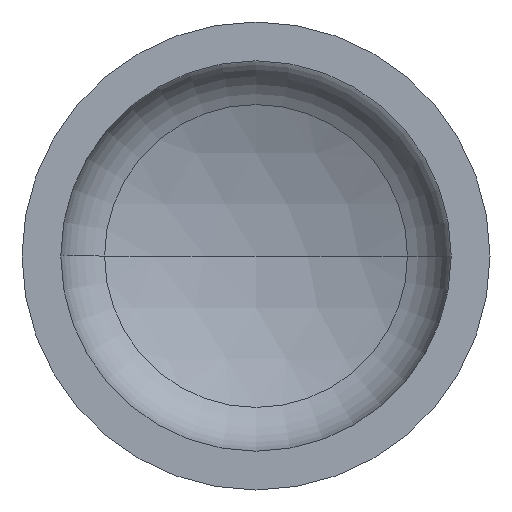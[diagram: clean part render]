
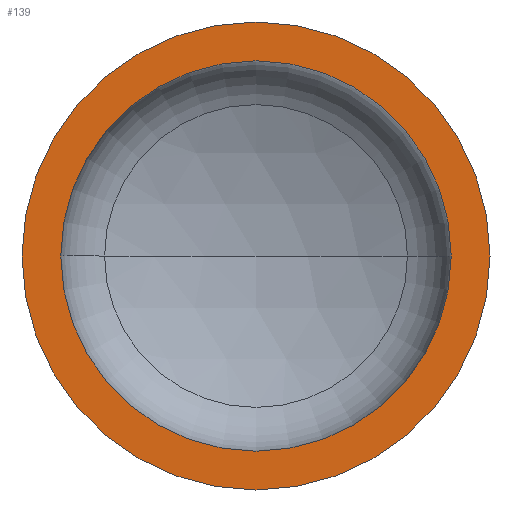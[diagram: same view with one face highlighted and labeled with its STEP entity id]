
A CAD part, front view. The second image highlights one B-rep face of the part: STEP entity #139.
In plain terms, the highlighted planar face has unit normal (0, -1, 0).
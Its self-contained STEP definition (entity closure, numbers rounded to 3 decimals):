
#5 = VERTEX_POINT ( 'NONE', #263 ) ;
#13 = EDGE_LOOP ( 'NONE', ( #81, #29 ) ) ;
#29 = ORIENTED_EDGE ( 'NONE', *, *, #124, .T. ) ;
#37 = AXIS2_PLACEMENT_3D ( 'NONE', #175, #95, #98 ) ;
#51 = VERTEX_POINT ( 'NONE', #281 ) ;
#56 = EDGE_LOOP ( 'NONE', ( #70, #102 ) ) ;
#69 = AXIS2_PLACEMENT_3D ( 'NONE', #226, #208, #209 ) ;
#70 = ORIENTED_EDGE ( 'NONE', *, *, #126, .F. ) ;
#81 = ORIENTED_EDGE ( 'NONE', *, *, #331, .T. ) ;
#92 = AXIS2_PLACEMENT_3D ( 'NONE', #310, #308, #305 ) ;
#95 = DIRECTION ( 'NONE',  ( 0., -1., 0. ) ) ;
#96 = VERTEX_POINT ( 'NONE', #231 ) ;
#98 = DIRECTION ( 'NONE',  ( 1., 0., 0. ) ) ;
#99 = AXIS2_PLACEMENT_3D ( 'NONE', #354, #349, #188 ) ;
#102 = ORIENTED_EDGE ( 'NONE', *, *, #391, .F. ) ;
#124 = EDGE_CURVE ( 'NONE', #5, #132, #160, .T. ) ;
#126 = EDGE_CURVE ( 'NONE', #51, #96, #405, .T. ) ;
#132 = VERTEX_POINT ( 'NONE', #314 ) ;
#139 = ADVANCED_FACE ( 'NONE', ( #398, #151 ), #190, .F. ) ;
#151 = FACE_OUTER_BOUND ( 'NONE', #13, .T. ) ;
#156 = CIRCLE ( 'NONE', #206, 292. ) ;
#160 = CIRCLE ( 'NONE', #99, 350. ) ;
#166 = DIRECTION ( 'NONE',  ( 0., -1., 0. ) ) ;
#175 = CARTESIAN_POINT ( 'NONE',  ( 0., 0., 0. ) ) ;
#188 = DIRECTION ( 'NONE',  ( 1., 0., 0. ) ) ;
#190 = PLANE ( 'NONE',  #69 ) ;
#206 = AXIS2_PLACEMENT_3D ( 'NONE', #315, #166, #340 ) ;
#208 = DIRECTION ( 'NONE',  ( 0., 1., 0. ) ) ;
#209 = DIRECTION ( 'NONE',  ( -1., 0., 0. ) ) ;
#226 = CARTESIAN_POINT ( 'NONE',  ( -350., 0., 0. ) ) ;
#231 = CARTESIAN_POINT ( 'NONE',  ( -292., 0., 0. ) ) ;
#258 = CIRCLE ( 'NONE', #37, 350. ) ;
#263 = CARTESIAN_POINT ( 'NONE',  ( -350., 0., 0. ) ) ;
#281 = CARTESIAN_POINT ( 'NONE',  ( 292., 0., 0. ) ) ;
#305 = DIRECTION ( 'NONE',  ( 1., 0., 0. ) ) ;
#308 = DIRECTION ( 'NONE',  ( 0., -1., 0. ) ) ;
#310 = CARTESIAN_POINT ( 'NONE',  ( 0., 0., 0. ) ) ;
#314 = CARTESIAN_POINT ( 'NONE',  ( 350., 0., 0. ) ) ;
#315 = CARTESIAN_POINT ( 'NONE',  ( 0., 0., 0. ) ) ;
#331 = EDGE_CURVE ( 'NONE', #132, #5, #258, .T. ) ;
#340 = DIRECTION ( 'NONE',  ( 1., 0., 0. ) ) ;
#349 = DIRECTION ( 'NONE',  ( 0., -1., 0. ) ) ;
#354 = CARTESIAN_POINT ( 'NONE',  ( 0., 0., 0. ) ) ;
#391 = EDGE_CURVE ( 'NONE', #96, #51, #156, .T. ) ;
#398 = FACE_BOUND ( 'NONE', #56, .T. ) ;
#405 = CIRCLE ( 'NONE', #92, 292. ) ;
